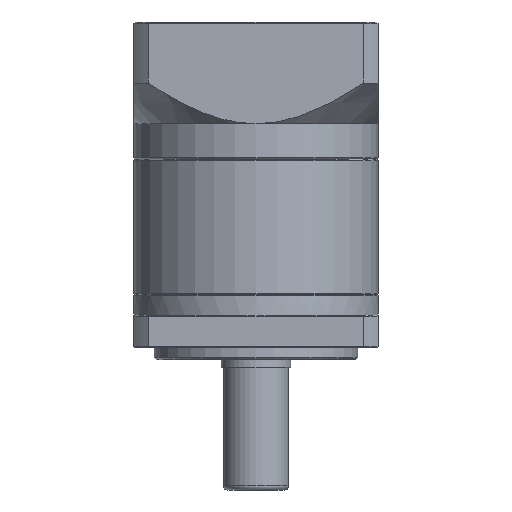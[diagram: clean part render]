
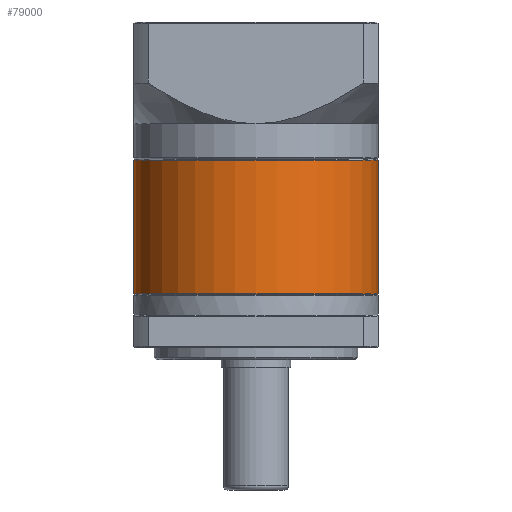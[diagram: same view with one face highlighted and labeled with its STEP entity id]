
A CAD part, front view. The second image highlights one B-rep face of the part: STEP entity #79000.
In plain terms, the highlighted cylindrical face has radius 30 mm (diameter 60 mm), a partial arc.
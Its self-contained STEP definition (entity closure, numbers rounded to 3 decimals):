
#2234 = LINE ( 'NONE', #47823, #94664 ) ;
#5837 = ORIENTED_EDGE ( 'NONE', *, *, #62070, .T. ) ;
#9454 = DIRECTION ( 'NONE',  ( 0., 0., -1. ) ) ;
#11788 = CIRCLE ( 'NONE', #20321, 30. ) ;
#12930 = DIRECTION ( 'NONE',  ( 0., 0., -1. ) ) ;
#13004 = VERTEX_POINT ( 'NONE', #76909 ) ;
#20321 = AXIS2_PLACEMENT_3D ( 'NONE', #49486, #9454, #24142 ) ;
#22957 = VECTOR ( 'NONE', #12930, 1000. ) ;
#24142 = DIRECTION ( 'NONE',  ( 1., 0., 0. ) ) ;
#33934 = ORIENTED_EDGE ( 'NONE', *, *, #91361, .F. ) ;
#38585 = FACE_OUTER_BOUND ( 'NONE', #96046, .T. ) ;
#38704 = DIRECTION ( 'NONE',  ( 0., 0., -1. ) ) ;
#38881 = DIRECTION ( 'NONE',  ( 0., 0., 1. ) ) ;
#40242 = DIRECTION ( 'NONE',  ( 0., 0., -1. ) ) ;
#41047 = ORIENTED_EDGE ( 'NONE', *, *, #54692, .T. ) ;
#47180 = CARTESIAN_POINT ( 'NONE',  ( -32.968, 26.169, -73.292 ) ) ;
#47823 = CARTESIAN_POINT ( 'NONE',  ( -62.968, 26.169, -40.242 ) ) ;
#48225 = EDGE_CURVE ( 'NONE', #13004, #102769, #11788, .T. ) ;
#49486 = CARTESIAN_POINT ( 'NONE',  ( -32.968, 26.169, -40.492 ) ) ;
#54241 = VERTEX_POINT ( 'NONE', #90202 ) ;
#54692 = EDGE_CURVE ( 'NONE', #54241, #72930, #93801, .T. ) ;
#58075 = CARTESIAN_POINT ( 'NONE',  ( -2.968, 26.169, -73.292 ) ) ;
#60233 = LINE ( 'NONE', #60548, #22957 ) ;
#60548 = CARTESIAN_POINT ( 'NONE',  ( -2.968, 26.169, -40.242 ) ) ;
#62070 = EDGE_CURVE ( 'NONE', #102769, #54241, #2234, .T. ) ;
#62961 = DIRECTION ( 'NONE',  ( -1., 0., 0. ) ) ;
#67131 = AXIS2_PLACEMENT_3D ( 'NONE', #47180, #38881, #95361 ) ;
#72930 = VERTEX_POINT ( 'NONE', #58075 ) ;
#73456 = CYLINDRICAL_SURFACE ( 'NONE', #102736, 30. ) ;
#73894 = ORIENTED_EDGE ( 'NONE', *, *, #48225, .T. ) ;
#76909 = CARTESIAN_POINT ( 'NONE',  ( -2.968, 26.169, -40.492 ) ) ;
#79000 = ADVANCED_FACE ( 'NONE', ( #38585 ), #73456, .T. ) ;
#85268 = CARTESIAN_POINT ( 'NONE',  ( -62.968, 26.169, -40.492 ) ) ;
#90202 = CARTESIAN_POINT ( 'NONE',  ( -62.968, 26.169, -73.292 ) ) ;
#91361 = EDGE_CURVE ( 'NONE', #13004, #72930, #60233, .T. ) ;
#93801 = CIRCLE ( 'NONE', #67131, 30. ) ;
#94136 = CARTESIAN_POINT ( 'NONE',  ( -32.968, 26.169, -40.242 ) ) ;
#94664 = VECTOR ( 'NONE', #40242, 1000. ) ;
#95361 = DIRECTION ( 'NONE',  ( 1., 0., 0. ) ) ;
#96046 = EDGE_LOOP ( 'NONE', ( #33934, #73894, #5837, #41047 ) ) ;
#102736 = AXIS2_PLACEMENT_3D ( 'NONE', #94136, #38704, #62961 ) ;
#102769 = VERTEX_POINT ( 'NONE', #85268 ) ;
